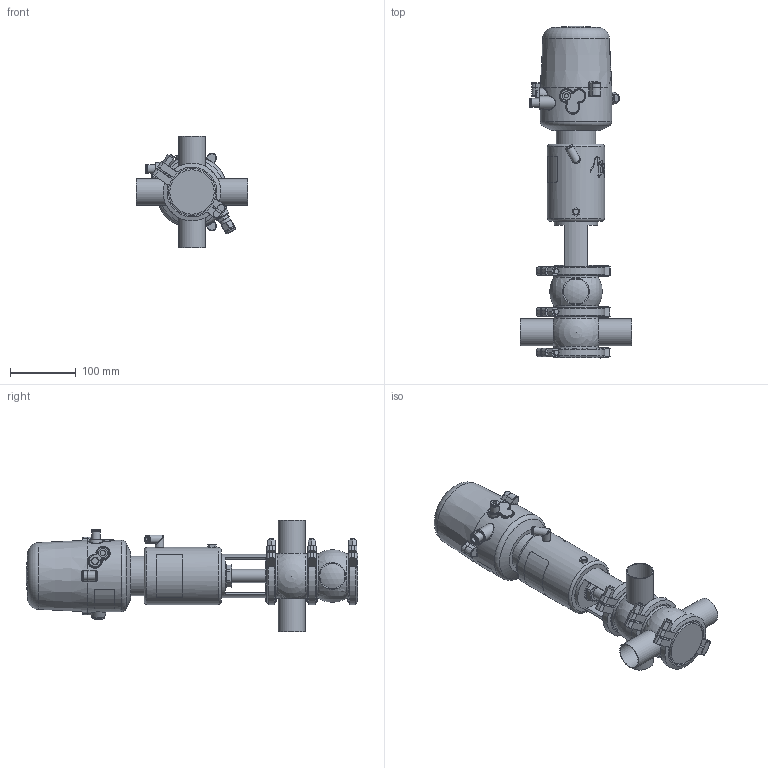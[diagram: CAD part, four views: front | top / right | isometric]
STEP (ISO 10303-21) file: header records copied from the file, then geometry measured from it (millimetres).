
FILE_DESCRIPTION (( 'STEP AP214' ), '1' );
FILE_NAME ('INNOVA M C W DIN 040 T1 AS NC & C-TOP S_10.241.16.0043.STEP', '2024-08-07T06:30:03', ( '' ), ( '' ), 'SwSTEP 2.0', 'SolidWorks 2023', '' );
FILE_SCHEMA (( 'AUTOMOTIVE_DESIGN' ));
Length unit declared in the file: millimetre
Products named in the file (8): 10.240.15.0014_T1 AS P180; 10.241.15.0001_DIN 040; 10.240.15.0017_Estàndard; 10.240.15.0007_DIN 040; INNOVA M C W DIN 040 T1 AS NC & C-TOP S_10.241.16.0043; 10.240.15.0010_DN 040; 10.240.15.0001_DN 040; 10.426.15.0001_C-TOP S - 1 EV
Assembly tree (10 placements, depth 2):
  INNOVA M C W DIN 040 T1 AS NC & C-TOP S_10.241.16.0043
    10.240.15.0007_DIN 040  x2
    10.240.15.0010_DN 040
    10.240.15.0014_T1 AS P180
    10.240.15.0017_Estàndard
    10.426.15.0001_C-TOP S - 1 EV
    10.240.15.0001_DN 040  x3
    10.241.15.0001_DIN 040
Bounding box: 170 x 505.07 x 170 mm (x, y, z)
Volume: 2949877.4 mm3; surface area: 329328.6 mm2
Topology: 11 solids, 11 shells, 1242 faces, 3008 edges, 1999 vertices
Faces by surface type: plane 444, cylinder 381, cone 211, bspline 160, torus 36, sphere 10
Full cylindrical faces by diameter (mm): 0.371 x17, 0.512 x16, 0.658 x16, 0.795 x16, 0.94 x15, 1.098 x15, 1.241 x13, 1.382 x13, 1.523 x11, 1.669 x10, 2.201 x1, 4 x2, 5.5 x2, 6 x2, 6.15 x1, 8 x8, 8.5 x1, 10 x1, 10.5 x1, 11 x2, 12.5 x3, 13 x2, 13.5 x2, 16 x1, 17 x3, 20 x3, 20.5 x1, 22 x2, 31 x1, 34.5 x3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
Entity records: 56732 total; most frequent: CARTESIAN_POINT 26638, ORIENTED_EDGE 4492, DIRECTION 3623, EDGE_CURVE 2246, VERTEX_POINT 1597, EDGE_LOOP 1555, AXIS2_PLACEMENT_3D 1483, FACE_OUTER_BOUND 1319
